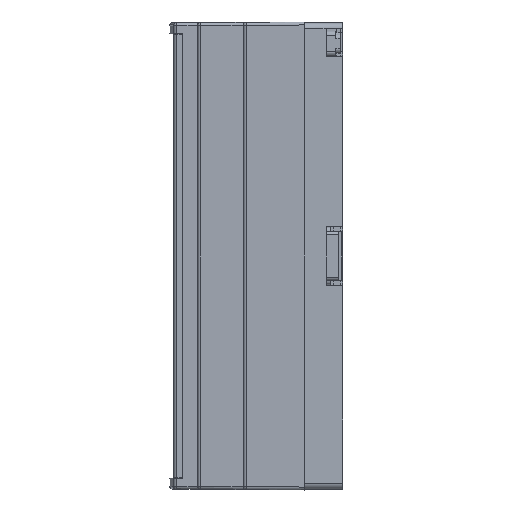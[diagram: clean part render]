
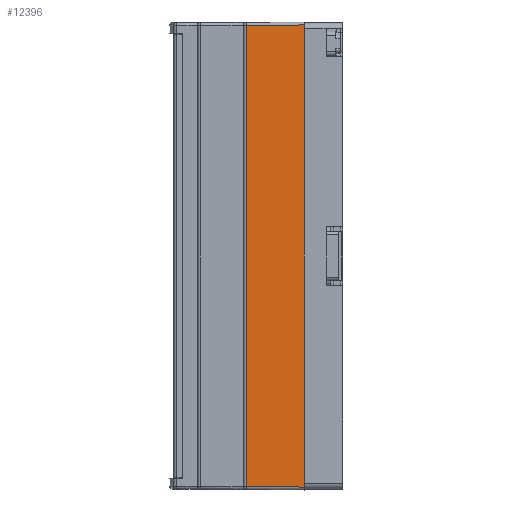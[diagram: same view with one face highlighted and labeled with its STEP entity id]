
A CAD part, left-side view. The second image highlights one B-rep face of the part: STEP entity #12396.
In plain terms, the highlighted planar face has unit normal (-1, 0.018, 0).
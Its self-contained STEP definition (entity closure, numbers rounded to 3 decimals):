
#147 = EDGE_CURVE ( 'NONE', #6262, #7607, #2040, .T. ) ;
#602 = VECTOR ( 'NONE', #6437, 1000. ) ;
#935 = EDGE_LOOP ( 'NONE', ( #7013, #17710, #10931, #2620 ) ) ;
#1006 = CARTESIAN_POINT ( 'NONE',  ( -45.3, -22.757, -78. ) ) ;
#1092 = EDGE_CURVE ( 'NONE', #4268, #6262, #7981, .T. ) ;
#1553 = EDGE_CURVE ( 'NONE', #7607, #10002, #11178, .T. ) ;
#2040 = LINE ( 'NONE', #10334, #13033 ) ;
#2049 = DIRECTION ( 'NONE',  ( 0., 0., -1. ) ) ;
#2190 = CARTESIAN_POINT ( 'NONE',  ( -45.3, -22.75, 79. ) ) ;
#2620 = ORIENTED_EDGE ( 'NONE', *, *, #1092, .T. ) ;
#3422 = CARTESIAN_POINT ( 'NONE',  ( -44.958, -3.133, -77.871 ) ) ;
#3770 = EDGE_CURVE ( 'NONE', #4268, #10002, #16861, .T. ) ;
#3836 = VECTOR ( 'NONE', #10768, 1000. ) ;
#4234 = PLANE ( 'NONE',  #17189 ) ;
#4268 = VERTEX_POINT ( 'NONE', #10168 ) ;
#5930 = VECTOR ( 'NONE', #9095, 1000. ) ;
#6262 = VERTEX_POINT ( 'NONE', #10016 ) ;
#6437 = DIRECTION ( 'NONE',  ( -0.017, -1., -0.007 ) ) ;
#6666 = CARTESIAN_POINT ( 'NONE',  ( -44.941, -2.157, 77.864 ) ) ;
#7013 = ORIENTED_EDGE ( 'NONE', *, *, #147, .T. ) ;
#7039 = DIRECTION ( 'NONE',  ( -0.017, -1., 0. ) ) ;
#7607 = VERTEX_POINT ( 'NONE', #3422 ) ;
#7981 = LINE ( 'NONE', #6666, #3836 ) ;
#9047 = CARTESIAN_POINT ( 'NONE',  ( -45.3, -22.75, -78. ) ) ;
#9095 = DIRECTION ( 'NONE',  ( 0., 0., -1. ) ) ;
#10002 = VERTEX_POINT ( 'NONE', #9047 ) ;
#10016 = CARTESIAN_POINT ( 'NONE',  ( -44.958, -3.133, 77.871 ) ) ;
#10168 = CARTESIAN_POINT ( 'NONE',  ( -45.3, -22.75, 78. ) ) ;
#10334 = CARTESIAN_POINT ( 'NONE',  ( -44.958, -3.133, 79. ) ) ;
#10768 = DIRECTION ( 'NONE',  ( 0.017, 1., -0.007 ) ) ;
#10931 = ORIENTED_EDGE ( 'NONE', *, *, #3770, .F. ) ;
#11178 = LINE ( 'NONE', #1006, #602 ) ;
#12396 = ADVANCED_FACE ( 'NONE', ( #16936 ), #4234, .T. ) ;
#13033 = VECTOR ( 'NONE', #2049, 1000. ) ;
#13835 = CARTESIAN_POINT ( 'NONE',  ( -44.889, 0.784, 79. ) ) ;
#15222 = DIRECTION ( 'NONE',  ( -1., 0.017, 0. ) ) ;
#16861 = LINE ( 'NONE', #2190, #5930 ) ;
#16936 = FACE_OUTER_BOUND ( 'NONE', #935, .T. ) ;
#17189 = AXIS2_PLACEMENT_3D ( 'NONE', #13835, #15222, #7039 ) ;
#17710 = ORIENTED_EDGE ( 'NONE', *, *, #1553, .T. ) ;
